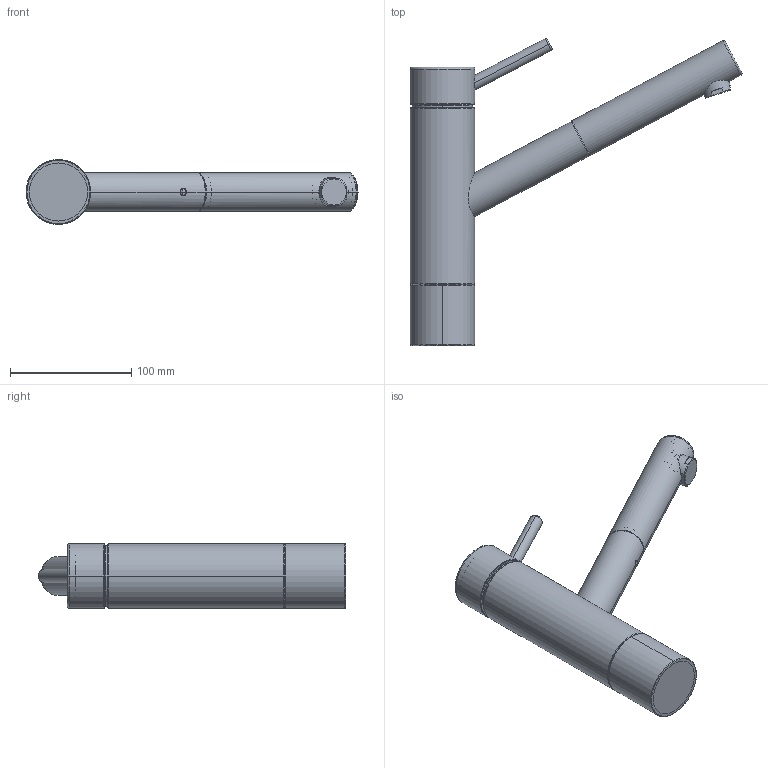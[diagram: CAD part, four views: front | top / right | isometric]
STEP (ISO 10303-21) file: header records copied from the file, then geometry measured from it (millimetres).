
FILE_DESCRIPTION((''),'2;1');
FILE_NAME('10_271_303_XXX','2012-01-04T',('laf'),(''),'PRO/ENGINEER BY PARAMETRIC TECHNOLOGY CORPORATION, 2011080','PRO/ENGINEER BY PARAMETRIC TECHNOLOGY CORPORATION, 2011080','');
FILE_SCHEMA(('AUTOMOTIVE_DESIGN_CC2 { 1 2 10303 214 -1 1 5 2 }'));
Length unit declared in the file: millimetre
Products named in the file (1): 10_271_303_XXX
Bounding box: 273.99 x 253.52 x 53.6 mm (x, y, z)
Volume: 219530.2 mm3; surface area: 166306.5 mm2
Topology: 3 solids, 4 shells, 386 faces, 896 edges, 540 vertices
Faces by surface type: cylinder 127, plane 113, torus 76, cone 46, sphere 14, bspline 10
Entity records: 13069 total; most frequent: CARTESIAN_POINT 4091, DIRECTION 2017, ORIENTED_EDGE 1788, EDGE_CURVE 894, AXIS2_PLACEMENT_3D 851, VERTEX_POINT 540, CIRCLE 475, EDGE_LOOP 424
